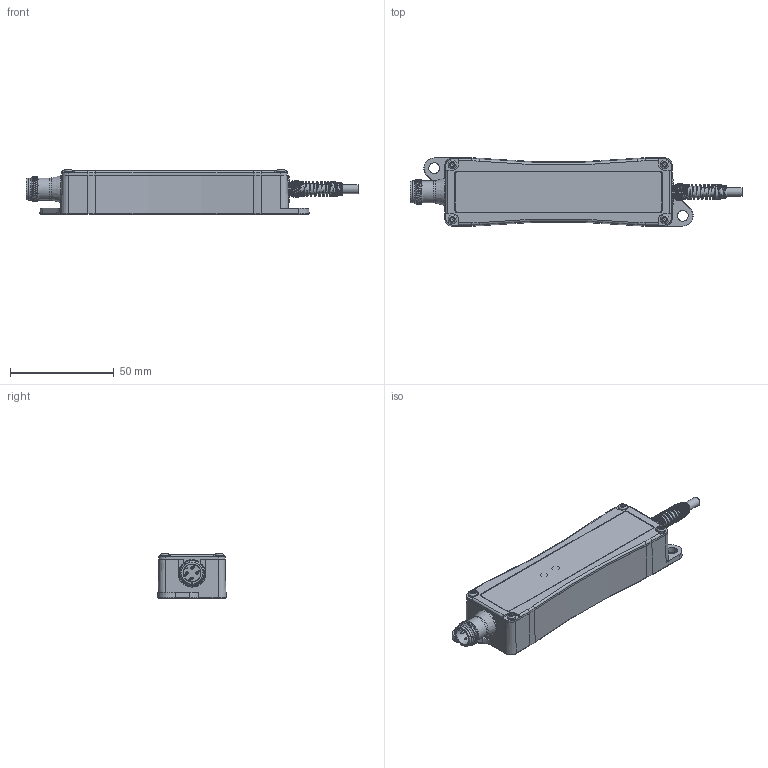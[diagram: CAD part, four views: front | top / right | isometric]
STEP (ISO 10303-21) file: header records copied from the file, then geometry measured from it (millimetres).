
FILE_DESCRIPTION(/* description */ ('Unknown'),/* implementation_level */ '2;1');
FILE_NAME(/* name */ 'DEEneo-ISC-M12',/* time_stamp */ '2025-01-03T10:59:12+01:00',/* author */ ('Unknown'),/* organization */ ('Unknown'),/* preprocessor_version */ 'ST-DEVELOPER v19.4',/* originating_system */ 'Solid Edge',/* authorisation */ 'Unknown');
FILE_SCHEMA (('AUTOMOTIVE_DESIGN {1 0 10303 214 3 1 1}'));
Length unit declared in the file: millimetre
Products named in the file (1): DEEneo-ISC-M12
Bounding box: 160.3 x 32.97 x 21.6 mm (x, y, z)
Surface area: 19633.4 mm2 (no closed solid volume)
Topology: 0 solids, 24 shells, 563 faces, 1563 edges, 1032 vertices
Faces by surface type: plane 213, cylinder 172, bspline 103, cone 37, torus 34, sphere 4
Full cylindrical faces by diameter (mm): 1 x4, 2.52 x4, 2.8 x1, 4.2 x4, 4.3 x1, 4.5 x1, 5.4 x1, 6.6 x1, 8.3 x1, 10.5 x1, 10.6 x2, 13 x2
Entity records: 26489 total; most frequent: CARTESIAN_POINT 12902, ORIENTED_EDGE 2736, DIRECTION 2582, EDGE_CURVE 1483, VERTEX_POINT 1021, AXIS2_PLACEMENT_3D 922, LINE 738, VECTOR 738
